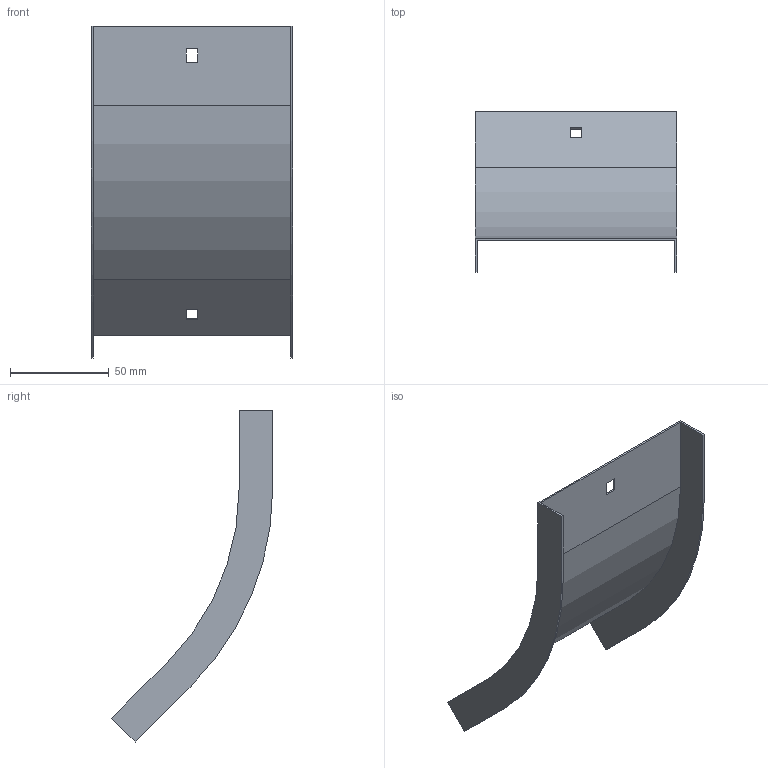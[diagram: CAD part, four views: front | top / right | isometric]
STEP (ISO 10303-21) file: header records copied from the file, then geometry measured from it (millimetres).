
FILE_DESCRIPTION (( 'STEP AP214' ), '1' );
FILE_NAME ('OS4_100.step', '2025-07-16T09:16:24', ( '' ), ( '' ), 'SwSTEP 2.0', 'SolidWorks 2023', '' );
FILE_SCHEMA (( 'AUTOMOTIVE_DESIGN' ));
Length unit declared in the file: millimetre
Products named in the file (1): OS4_100
Bounding box: 102 x 81.6 x 167.99 mm (x, y, z)
Volume: 23952.4 mm3; surface area: 48605.5 mm2
Topology: 1 solids, 1 shells, 26 faces, 72 edges, 48 vertices
Faces by surface type: plane 22, cylinder 4
Entity records: 855 total; most frequent: CARTESIAN_POINT 147, ORIENTED_EDGE 144, DIRECTION 134, EDGE_CURVE 72, VECTOR 64, LINE 64, VERTEX_POINT 48, AXIS2_PLACEMENT_3D 35
